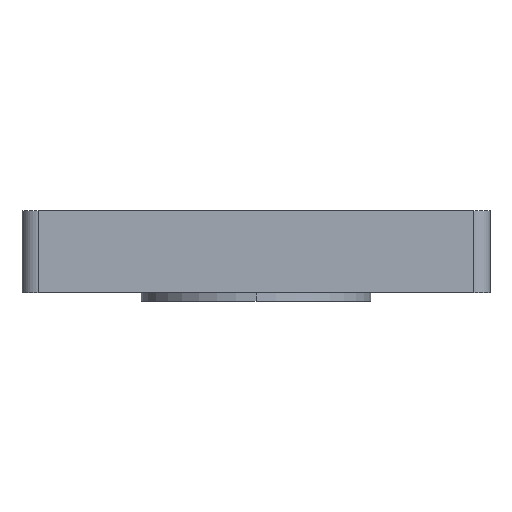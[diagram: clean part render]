
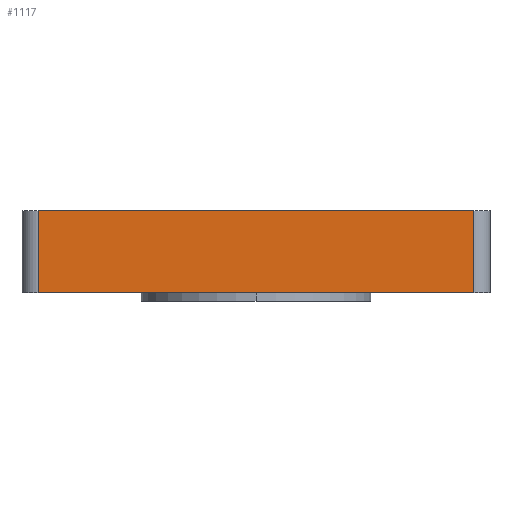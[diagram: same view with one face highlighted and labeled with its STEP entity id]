
A CAD part, left-side view. The second image highlights one B-rep face of the part: STEP entity #1117.
In plain terms, the highlighted planar face has unit normal (-1, 0, 0).
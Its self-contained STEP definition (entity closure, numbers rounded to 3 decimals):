
#108 = VECTOR ( 'NONE', #929, 1000. ) ;
#136 = EDGE_LOOP ( 'NONE', ( #479, #1046, #729, #1116 ) ) ;
#137 = CARTESIAN_POINT ( 'NONE',  ( -28.5, -28.5, 10. ) ) ;
#151 = FACE_OUTER_BOUND ( 'NONE', #136, .T. ) ;
#154 = VERTEX_POINT ( 'NONE', #1708 ) ;
#161 = VERTEX_POINT ( 'NONE', #728 ) ;
#241 = LINE ( 'NONE', #527, #108 ) ;
#309 = DIRECTION ( 'NONE',  ( 0., -1., 0. ) ) ;
#343 = VERTEX_POINT ( 'NONE', #533 ) ;
#377 = DIRECTION ( 'NONE',  ( 0., 0., 1. ) ) ;
#414 = EDGE_CURVE ( 'NONE', #154, #1279, #241, .T. ) ;
#450 = EDGE_CURVE ( 'NONE', #154, #161, #1340, .T. ) ;
#452 = CARTESIAN_POINT ( 'NONE',  ( -28.5, -26.5, 10. ) ) ;
#479 = ORIENTED_EDGE ( 'NONE', *, *, #1181, .T. ) ;
#527 = CARTESIAN_POINT ( 'NONE',  ( -28.5, -28.5, 10. ) ) ;
#533 = CARTESIAN_POINT ( 'NONE',  ( -28.5, -26.5, 0. ) ) ;
#548 = LINE ( 'NONE', #1331, #840 ) ;
#550 = VECTOR ( 'NONE', #309, 1000. ) ;
#719 = CARTESIAN_POINT ( 'NONE',  ( -28.5, -28.5, 0. ) ) ;
#728 = CARTESIAN_POINT ( 'NONE',  ( -28.5, 26.5, 0. ) ) ;
#729 = ORIENTED_EDGE ( 'NONE', *, *, #414, .F. ) ;
#821 = DIRECTION ( 'NONE',  ( 1., 0., 0. ) ) ;
#840 = VECTOR ( 'NONE', #377, 1000. ) ;
#929 = DIRECTION ( 'NONE',  ( 0., -1., 0. ) ) ;
#947 = CARTESIAN_POINT ( 'NONE',  ( -28.5, 26.5, 10. ) ) ;
#963 = PLANE ( 'NONE',  #1617 ) ;
#1046 = ORIENTED_EDGE ( 'NONE', *, *, #1737, .T. ) ;
#1116 = ORIENTED_EDGE ( 'NONE', *, *, #450, .T. ) ;
#1117 = ADVANCED_FACE ( 'NONE', ( #151 ), #963, .F. ) ;
#1149 = LINE ( 'NONE', #719, #550 ) ;
#1181 = EDGE_CURVE ( 'NONE', #161, #343, #1149, .T. ) ;
#1226 = DIRECTION ( 'NONE',  ( 0., 0., -1. ) ) ;
#1279 = VERTEX_POINT ( 'NONE', #452 ) ;
#1331 = CARTESIAN_POINT ( 'NONE',  ( -28.5, -26.5, 10. ) ) ;
#1340 = LINE ( 'NONE', #947, #1537 ) ;
#1537 = VECTOR ( 'NONE', #1792, 1000. ) ;
#1617 = AXIS2_PLACEMENT_3D ( 'NONE', #137, #821, #1226 ) ;
#1708 = CARTESIAN_POINT ( 'NONE',  ( -28.5, 26.5, 10. ) ) ;
#1737 = EDGE_CURVE ( 'NONE', #343, #1279, #548, .T. ) ;
#1792 = DIRECTION ( 'NONE',  ( 0., 0., -1. ) ) ;
